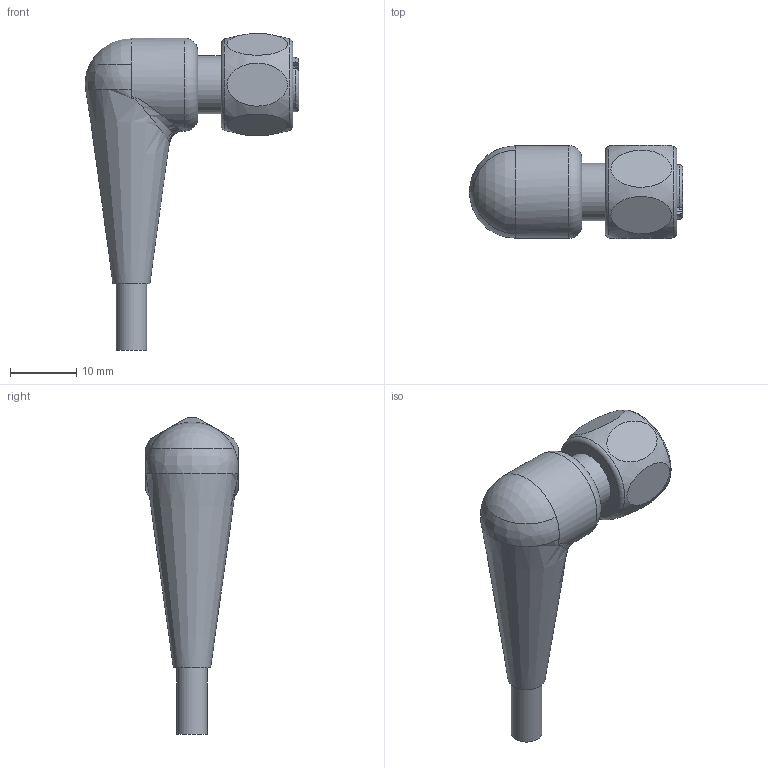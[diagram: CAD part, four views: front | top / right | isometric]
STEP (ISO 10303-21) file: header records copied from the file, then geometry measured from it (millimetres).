
FILE_DESCRIPTION( ( 'Unknown' ), '1' );
FILE_NAME( 'X:/SolidEdge/Models/Dokumentationen/_Standardteile/Kabeldosen/ES 33/Vereinfachte Modelle/Neutralformate/ESW 33AY.stp', 'Unknown', ( 'Unknown' ), ( 'Unknown' ), 'PSStep 15.0.49', 'Unknown', ' ' );
FILE_SCHEMA( ( 'AUTOMOTIVE_DESIGN { 1 0 10303 214 1 1 1 1 }' ) );
Length unit declared in the file: millimetre
Products named in the file (1): FB-WWAK4_S3930
Bounding box: 32.15 x 14 x 47.68 mm (x, y, z)
Volume: 5693.7 mm3; surface area: 2908.2 mm2
Topology: 1 solids, 1 shells, 82 faces, 183 edges, 122 vertices
Faces by surface type: plane 35, cylinder 31, cone 7, torus 5, bspline 3, sphere 1
Full cylindrical faces by diameter (mm): 1.15 x4, 4.6 x1, 8.7 x1, 10.917 x1, 14 x1
Entity records: 3364 total; most frequent: CARTESIAN_POINT 948, DIRECTION 396, ORIENTED_EDGE 312, AXIS2_PLACEMENT_3D 170, EDGE_CURVE 156, EDGE_LOOP 121, VERTEX_POINT 115, FACE_OUTER_BOUND 95
